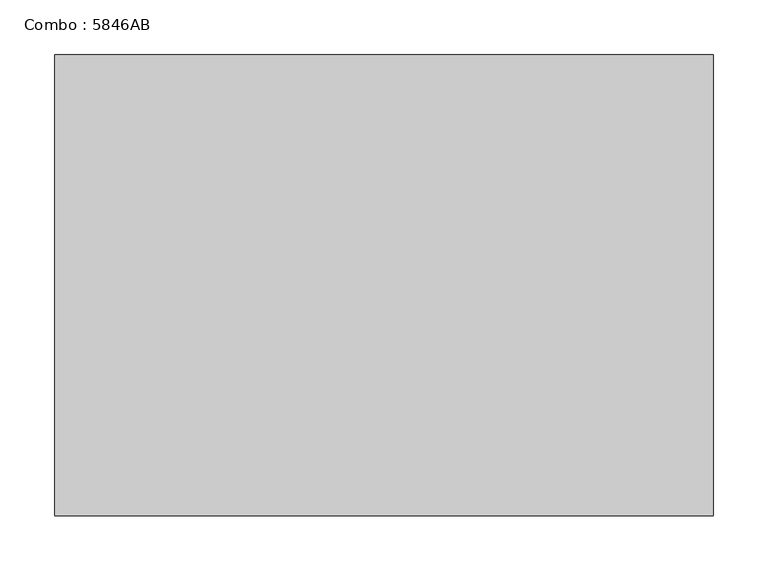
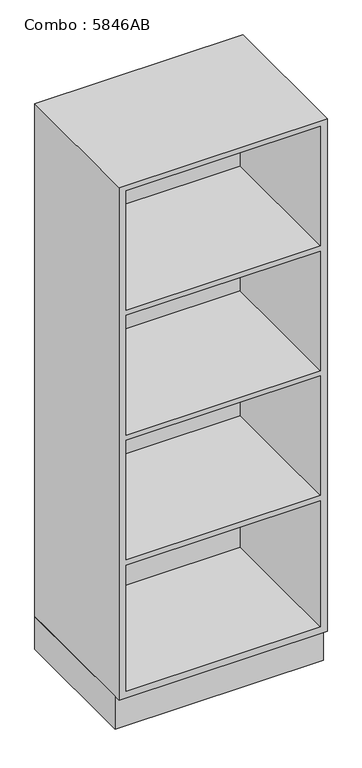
"""IFC4 building model written with IfcOpenShell, lengths in millimetres: furniture geometry, Combo : 5846AB."""

import ifcopenshell
import ifcopenshell.guid

model = None  # the IFC model being written
_history = None  # IfcOwnerHistory: only IFC2X3 demands one
_inside = {}  # id of a spatial element -> (the spatial element, [elements in it])
_under = {}  # id of a project, library or spatial element -> (it, [spatial elements below it])
_declared = {}  # id of a project -> (the project, [libraries it declares])
_typed = {}  # id of a type object -> (the type object, [elements of that type])
_made_of = {}  # id of a material, layer set ... -> (it, [elements and type objects made of it])


def new_model(schema):
    """Start an empty IFC model of exactly this schema.

    Asked for "IFC4X3", IfcOpenShell would pick the latest addendum, in which some entities
    have other attributes; the version numbers below select the first issue.
    IFC2X3 requires an IfcOwnerHistory on every rooted entity: one is made here for all.
    """
    global model, _history
    if schema == "IFC4X3":
        model = ifcopenshell.file(schema_version=(4, 3, 0, 0))
    else:
        model = ifcopenshell.file(schema=schema)
    _inside.clear()
    _under.clear()
    _declared.clear()
    _typed.clear()
    _made_of.clear()
    _history = None
    if model.schema == "IFC2X3":
        org = make("IfcOrganization", Name="unknown")
        user = make(
            "IfcPersonAndOrganization",
            ThePerson=make("IfcPerson", FamilyName="unknown"),
            TheOrganization=org,
        )
        app = make(
            "IfcApplication",
            ApplicationDeveloper=org,
            Version="unknown",
            ApplicationFullName="unknown",
            ApplicationIdentifier="unknown",
        )
        _history = make(
            "IfcOwnerHistory",
            OwningUser=user,
            OwningApplication=app,
            ChangeAction="ADDED",
            CreationDate=0,
        )
    return model


def make(cls, **values):
    """One entity of the class cls with the attributes given. An attribute that is None is left unset."""
    return model.create_entity(
        cls, **{name: value for name, value in values.items() if value is not None}
    )


def rooted(cls, **values):
    """An entity with a GlobalId (a new one), such as an element, a storey or a relation."""
    return make(cls, GlobalId=ifcopenshell.guid.new(), OwnerHistory=_history, **values)


def si_unit(unit_type, name, prefix=None):
    """IfcSIUnit, for example si_unit("LENGTHUNIT", "METRE", prefix="MILLI")."""
    return make("IfcSIUnit", UnitType=unit_type, Prefix=prefix, Name=name)


def assignment(units):
    """IfcUnitAssignment: the units of a project."""
    return None if units is None else make("IfcUnitAssignment", Units=units)


def point(xyz):
    """IfcCartesianPoint."""
    return None if xyz is None else make("IfcCartesianPoint", Coordinates=xyz)


def direction(xyz):
    """IfcDirection."""
    return None if xyz is None else make("IfcDirection", DirectionRatios=xyz)


def frame(location, z_axis=None, x_axis=None):
    """IfcAxis2Placement3D, a coordinate frame: its origin and axes. An axis left out is left unset."""
    return make(
        "IfcAxis2Placement3D",
        Location=point(location),
        Axis=direction(z_axis),
        RefDirection=direction(x_axis),
    )


def origin():
    """The frame at (0, 0, 0) with its axes left unset."""
    return frame((0.0, 0.0, 0.0))


def origin_with_axes():
    """The frame at (0, 0, 0) with the z axis (0, 0, 1) and the x axis (1, 0, 0) written out."""
    return frame((0.0, 0.0, 0.0), z_axis=(0.0, 0.0, 1.0), x_axis=(1.0, 0.0, 0.0))


def place(relative_to, where):
    """IfcLocalPlacement: puts the frame where relative to a parent placement (None: the world)."""
    return make(
        "IfcLocalPlacement", PlacementRelTo=relative_to, RelativePlacement=where
    )


def context(
    kind, dimensions, precision=None, world=None, true_north=None, identifier=None
):
    """IfcGeometricRepresentationContext, for example the 3D "Model" context."""
    return make(
        "IfcGeometricRepresentationContext",
        ContextIdentifier=identifier,
        ContextType=kind,
        CoordinateSpaceDimension=dimensions,
        Precision=precision,
        WorldCoordinateSystem=world,
        TrueNorth=true_north,
    )


def project(units=None, contexts=None):
    """IfcProject with its units and contexts."""
    return rooted(
        "IfcProject",
        Name="project",
        RepresentationContexts=contexts,
        UnitsInContext=assignment(units),
    )


def spatial(cls, under=None, at=None, **own):
    """A site, building, storey or space (cls), placed at a placement, below another one or the project."""
    s = rooted(cls, ObjectPlacement=at, **own)
    if under is not None:
        _under.setdefault(under.id(), (under, []))[1].append(s)
    return s


def polyline(points):
    """IfcPolyline through the points."""
    return make("IfcPolyline", Points=[point(p) for p in points])


def outline(outer, holes=None, kind="AREA"):
    """IfcArbitraryClosedProfileDef: a profile drawn as a closed curve; with holes, ...WithVoids."""
    if holes is None:
        return make("IfcArbitraryClosedProfileDef", ProfileType=kind, OuterCurve=outer)
    return make(
        "IfcArbitraryProfileDefWithVoids",
        ProfileType=kind,
        OuterCurve=outer,
        InnerCurves=holes,
    )


def extrude(swept, where, along, depth):
    """IfcExtrudedAreaSolid: the profile swept, set in the frame where, extruded along a direction by depth."""
    return make(
        "IfcExtrudedAreaSolid",
        SweptArea=swept,
        Position=where,
        ExtrudedDirection=direction(along),
        Depth=depth,
    )


def faces_of(points, faces, orient=None, outer=None):
    """IfcFace entities. A face is a list of loops; a loop is a list of indices into points, from 0.

    orient and outer hold one flag for each loop. By default every Orientation is true, the
    first loop of a face is its IfcFaceOuterBound and the others are IfcFaceBound.
    """
    made = []
    for i, loops in enumerate(faces):
        bounds = []
        for j, loop in enumerate(loops):
            is_outer = j == 0 if outer is None else outer[i][j]
            bounds.append(
                make(
                    "IfcFaceOuterBound" if is_outer else "IfcFaceBound",
                    Bound=make("IfcPolyLoop", Polygon=[points[k] for k in loop]),
                    Orientation=True if orient is None else orient[i][j],
                )
            )
        made.append(make("IfcFace", Bounds=bounds))
    return made


def faceted_brep(points, faces, orient=None, outer=None, voids=None):
    """IfcFacetedBrep: a solid bounded by flat faces; with voids (closed shells), ...WithVoids."""
    shared = [point(p) for p in points]
    hull = make("IfcClosedShell", CfsFaces=faces_of(shared, faces, orient, outer))
    if voids is None:
        return make("IfcFacetedBrep", Outer=hull)
    return make(
        "IfcFacetedBrepWithVoids",
        Outer=hull,
        Voids=[
            make(cls, CfsFaces=faces_of(shared, fs, o, b)) for cls, fs, o, b in voids
        ],
    )


def shape(context_of_items, identifier, shape_type, items):
    """IfcShapeRepresentation: the items that make up one representation, for example the "Body"."""
    return make(
        "IfcShapeRepresentation",
        ContextOfItems=context_of_items,
        RepresentationIdentifier=identifier,
        RepresentationType=shape_type,
        Items=items,
    )


def source(mapping_origin, context_of_items, identifier, shape_type, items):
    """IfcRepresentationMap: a shape defined once, which mapped items show again and again."""
    return make(
        "IfcRepresentationMap",
        MappingOrigin=mapping_origin,
        MappedRepresentation=shape(context_of_items, identifier, shape_type, items),
    )


def transform(
    local_origin,
    x_axis=None,
    y_axis=None,
    z_axis=None,
    scale=None,
    scale2=None,
    scale3=None,
    uniform=True,
):
    """IfcCartesianTransformationOperator3D, or its non-uniform kind. x_axis, y_axis, z_axis: its Axis1, 2, 3."""
    if uniform:
        return make(
            "IfcCartesianTransformationOperator3D",
            Axis1=direction(x_axis),
            Axis2=direction(y_axis),
            LocalOrigin=point(local_origin),
            Scale=scale,
            Axis3=direction(z_axis),
        )
    return make(
        "IfcCartesianTransformationOperator3DnonUniform",
        Axis1=direction(x_axis),
        Axis2=direction(y_axis),
        LocalOrigin=point(local_origin),
        Scale=scale,
        Axis3=direction(z_axis),
        Scale2=scale2,
        Scale3=scale3,
    )


def mapped(mapping_source, mapping_target):
    """IfcMappedItem: shows the shape of a source again, moved by a transform."""
    return make(
        "IfcMappedItem", MappingSource=mapping_source, MappingTarget=mapping_target
    )


def made_of(thing, what):
    """Note that an element or type object is made of a material, layer set ...; save() writes the relation."""
    if what is not None:
        _made_of.setdefault(what.id(), (what, []))[1].append(thing)
    return thing


def element(
    cls,
    number,
    at=None,
    inside=None,
    cuts=None,
    type_object=None,
    material=None,
    context=None,
    identifier="Body",
    shape_type=None,
    held_by="IfcProductDefinitionShape",
    body=None,
    shapes=None,
    **own,
):
    """One element of the class cls, such as IfcWall. Its Tag is "e" and its number.

    at: its placement. inside: the storey or other place that contains it. cuts: it is an
    opening in that element (IfcRelVoidsElement). A single representation is given by context,
    identifier, shape_type and body (its items); several are given by shapes. held_by: the class
    of the entity that holds the representations. save() writes the other relations.
    """
    e = rooted(cls, Tag="e%d" % number, ObjectPlacement=at, **own)
    if body is not None:
        shapes = [shape(context, identifier, shape_type, body)]
    if shapes is not None:
        e.Representation = make(held_by, Representations=shapes)
    if inside is not None:
        _inside.setdefault(inside.id(), (inside, []))[1].append(e)
    if cuts is not None:
        rooted(
            "IfcRelVoidsElement", RelatingBuildingElement=cuts, RelatedOpeningElement=e
        )
    if type_object is not None:
        _typed.setdefault(type_object.id(), (type_object, []))[1].append(e)
    return made_of(e, material)


def aggregate(whole, parts):
    """IfcRelAggregates: a whole, such as a stair, and the parts it consists of."""
    return rooted("IfcRelAggregates", RelatingObject=whole, RelatedObjects=parts)


def save(model, path):
    """Write the relations noted so far, then the file.

    IfcRelAggregates (storeys below a building ...), IfcRelContainedInSpatialStructure (elements
    in a storey), IfcRelDefinesByType, IfcRelAssociatesMaterial and IfcRelDeclares: one each for
    every whole, place, type object, material and project.
    """
    for whole, parts in _under.values():
        aggregate(whole, parts)
    for where, things in _inside.values():
        rooted(
            "IfcRelContainedInSpatialStructure",
            RelatedElements=things,
            RelatingStructure=where,
        )
    for kind, things in _typed.values():
        rooted("IfcRelDefinesByType", RelatedObjects=things, RelatingType=kind)
    for what, things in _made_of.values():
        rooted("IfcRelAssociatesMaterial", RelatedObjects=things, RelatingMaterial=what)
    for by, libraries in _declared.values():
        rooted("IfcRelDeclares", RelatingContext=by, RelatedDefinitions=libraries)
    model.write(path)


def combo_5846ab_d922b521(model_context):
    return source(origin(), model_context, "Body", "SolidModel", [
        extrude(outline(polyline([(-300.0, -400.0), (-300.0, 0.0), (300.0, 0.0), (300.0, -400.0), (-300.0, -400.0)])), origin_with_axes(), (0.0, 0.0, 1.0), 100.0),
        faceted_brep([(300.0, 0.0, 1660.0), (-300.0, 0.0, 1660.0), (-300.0, -420.0, 1660.0), (300.0, -420.0, 1660.0), (-300.0, 0.0, 100.0), (300.0, 0.0, 100.0), (300.0, -420.0, 100.0), (-300.0, -420.0, 100.0), (280.0, -420.0, 504.0), (280.0, -420.0, 120.0), (-280.0, -420.0, 120.0), (-280.0, -420.0, 504.0), (280.0, -420.0, 884.0), (280.0, -420.0, 520.0), (-280.0, -420.0, 520.0), (-280.0, -420.0, 884.0), (280.0, -420.0, 1264.0), (280.0, -420.0, 900.0), (-280.0, -420.0, 900.0), (-280.0, -420.0, 1264.0), (280.0, -420.0, 1644.0), (280.0, -420.0, 1280.0), (-280.0, -420.0, 1280.0), (-280.0, -420.0, 1644.0), (280.0, -20.0, 120.0), (280.0, -20.0, 504.0), (-280.0, -20.0, 504.0), (-280.0, -20.0, 120.0), (280.0, -20.0, 520.0), (280.0, -20.0, 884.0), (-280.0, -20.0, 884.0), (-280.0, -20.0, 520.0), (280.0, -20.0, 900.0), (280.0, -20.0, 1264.0), (-280.0, -20.0, 1264.0), (-280.0, -20.0, 900.0), (280.0, -20.0, 1280.0), (280.0, -20.0, 1644.0), (-280.0, -20.0, 1644.0), (-280.0, -20.0, 1280.0)], [[[0, 1, 2, 3]], [[4, 5, 6, 7]], [[1, 0, 5, 4]], [[2, 1, 4, 7]], [[3, 2, 7, 6], [8, 9, 10, 11], [12, 13, 14, 15], [16, 17, 18, 19], [20, 21, 22, 23]], [[0, 3, 6, 5]], [[24, 25, 26, 27]], [[25, 24, 9, 8]], [[26, 25, 8, 11]], [[27, 26, 11, 10]], [[24, 27, 10, 9]], [[28, 29, 30, 31]], [[29, 28, 13, 12]], [[30, 29, 12, 15]], [[31, 30, 15, 14]], [[28, 31, 14, 13]], [[32, 33, 34, 35]], [[33, 32, 17, 16]], [[34, 33, 16, 19]], [[35, 34, 19, 18]], [[32, 35, 18, 17]], [[36, 37, 38, 39]], [[37, 36, 21, 20]], [[38, 37, 20, 23]], [[39, 38, 23, 22]], [[36, 39, 22, 21]]]),
    ])


if __name__ == "__main__":
    model = new_model("IFC4")
    model_context = context("Model", 3, world=origin())
    ifc_project = project(units=[si_unit("LENGTHUNIT", "METRE", prefix="MILLI")], contexts=[model_context])
    site = spatial("IfcSite", under=ifc_project)
    building = spatial("IfcBuilding", under=site)
    placement = place(None, origin())
    combo_5846ab_shape = combo_5846ab_d922b521(model_context)
    element("IfcFurniture", 1, ObjectType="Combo : 5846AB", at=placement, inside=building, context=model_context, shape_type="MappedRepresentation", body=[
        mapped(combo_5846ab_shape, transform((0.0, 0.0, 0.0), x_axis=(1.0, 0.0, 0.0), y_axis=(0.0, 1.0, 0.0), z_axis=(0.0, 0.0, 1.0))),
    ])
    save(model, "model.ifc")
